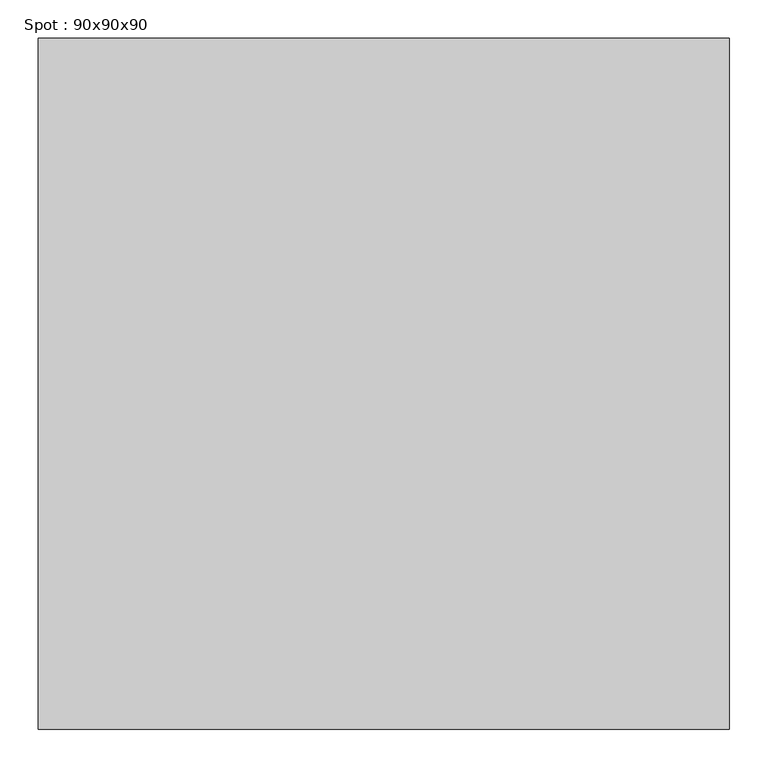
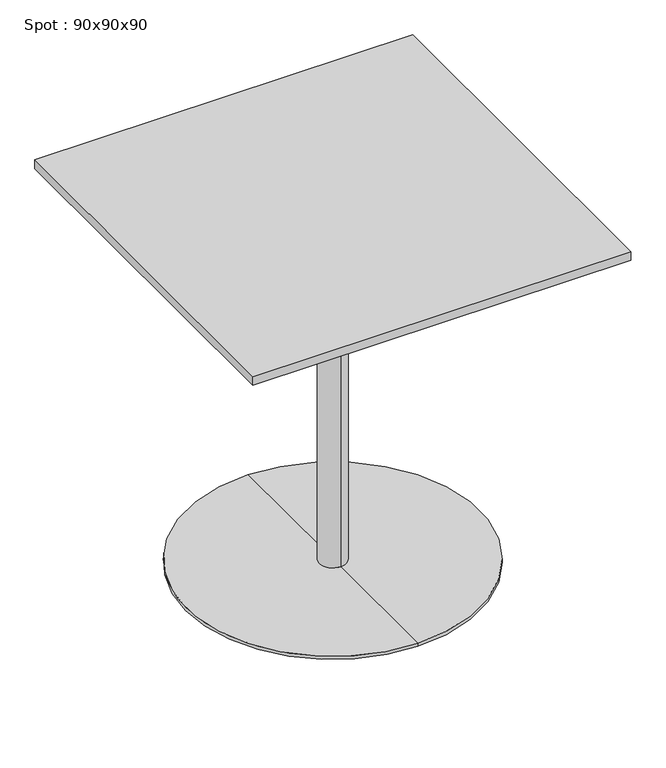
"""IFC4 building model written with IfcOpenShell, lengths in millimetres: furniture geometry, Spot : 90x90x90."""

from ifc_helpers import new_model, si_unit, frame, origin, place, context, project, spatial, polyline, circle_curve, outline, extrude, source, transform, mapped, element, save
from ifc_brep_helpers import plane_surface, cylinder_surface, revolved_surface, advanced_brep


def spot_90x90x90_a43f632c(model_context):
    return source(origin(), model_context, "Body", "SolidModel", [
        extrude(outline(polyline([(450.0, 450.0), (450.0, -450.0), (-450.0, -450.0), (-450.0, 450.0), (450.0, 450.0)])), frame((0.0, 0.0, 878.0), z_axis=(0.0, 0.0, 1.0), x_axis=(1.0, 0.0, 0.0)), (0.0, 0.0, 1.0), 22.0),
        advanced_brep(
        [(0.0, 32.0, 10.0), (0.0, -32.0, 10.0), (0.0, -32.0, 847.406916), (0.0, 32.0, 847.406916), (0.0, 350.0, 10.0), (0.0, -350.0, 10.0), (0.0, 350.0, 2.0), (0.0, -350.0, 2.0), (0.0, 0.0, 2.0), (0.0, 150.0, 878.0), (0.0, -150.0, 878.0), (0.0, 0.0, 878.0), (0.0, 150.0, 866.7213673), (0.0, -150.0, 866.7213673)],
        [
            (0, 1, circle_curve(frame((0.0, 0.0, 10.0), z_axis=(0.0, 0.0, 1.0), x_axis=(0.0, -1.0, 0.0)), 32.0)),
            (1, 2),
            (2, 3, circle_curve(frame((0.0, 0.0, 847.406916), z_axis=(0.0, 0.0, -1.0), x_axis=(0.0, -1.0, 0.0)), 32.0)),
            (3, 0),
            (1, 0, circle_curve(frame((0.0, 0.0, 10.0), z_axis=(0.0, 0.0, 1.0), x_axis=(0.0, -1.0, 0.0)), 32.0)),
            (3, 2, circle_curve(frame((0.0, 0.0, 847.406916), z_axis=(0.0, 0.0, -1.0), x_axis=(0.0, -1.0, 0.0)), 32.0)),
            (4, 5, circle_curve(frame((0.0, 0.0, 10.0), z_axis=(0.0, 0.0, 1.0), x_axis=(0.0, -1.0, 0.0)), 350.0)),
            (5, 1),
            (0, 4),
            (5, 4, circle_curve(frame((0.0, 0.0, 10.0), z_axis=(0.0, 0.0, 1.0), x_axis=(0.0, -1.0, 0.0)), 350.0)),
            (6, 7, circle_curve(frame((0.0, 0.0, 2.0), z_axis=(0.0, 0.0, 1.0), x_axis=(0.0, -1.0, 0.0)), 350.0)),
            (7, 5),
            (4, 6),
            (7, 6, circle_curve(frame((0.0, 0.0, 2.0), z_axis=(0.0, 0.0, 1.0), x_axis=(0.0, -1.0, 0.0)), 350.0)),
            (8, 7),
            (6, 8),
            (9, 10, circle_curve(frame((0.0, 0.0, 878.0), z_axis=(0.0, 0.0, 1.0), x_axis=(0.0, -1.0, 0.0)), 150.0)),
            (10, 11),
            (11, 9),
            (10, 9, circle_curve(frame((0.0, 0.0, 878.0), z_axis=(0.0, 0.0, 1.0), x_axis=(0.0, -1.0, 0.0)), 150.0)),
            (12, 13, circle_curve(frame((0.0, 0.0, 866.7213673), z_axis=(0.0, 0.0, 1.0), x_axis=(0.0, -1.0, 0.0)), 150.0)),
            (13, 10),
            (9, 12),
            (13, 12, circle_curve(frame((0.0, 0.0, 866.7213673), z_axis=(0.0, 0.0, 1.0), x_axis=(0.0, -1.0, 0.0)), 150.0)),
            (2, 13),
            (12, 3),
        ],
        [
            cylinder_surface(frame((0.0, 0.0, 1240.0), z_axis=(0.0, 0.0, -1.0), x_axis=(0.0, -1.0, 0.0)), 32.0),
            plane_surface(frame((0.0, 0.0, 10.0), z_axis=(0.0, 0.0, 1.0), x_axis=(0.0, -1.0, 0.0))),
            cylinder_surface(frame((0.0, 0.0, 1240.0), z_axis=(0.0, 0.0, -1.0), x_axis=(0.0, -1.0, 0.0)), 350.0),
            plane_surface(frame((0.0, 0.0, 2.0), z_axis=(0.0, 0.0, -1.0), x_axis=(0.0, -1.0, 0.0))),
            plane_surface(frame((0.0, 0.0, 878.0), z_axis=(0.0, 0.0, 1.0), x_axis=(0.0, -1.0, 0.0))),
            cylinder_surface(frame((0.0, 0.0, 1240.0), z_axis=(0.0, 0.0, -1.0), x_axis=(0.0, -1.0, 0.0)), 150.0),
            revolved_surface(polyline([(0.0, -150.0, 866.7213673), (0.0, -32.0, 847.406916)]), (0.0, 0.0, 1240.0), (0.0, 0.0, -1.0)),
        ],
        [
            (0, [[1, 2, 3, 4]]),
            (0, [[5, -4, 6, -2]]),
            (1, [[7, 8, -1, 9]]),
            (1, [[10, -9, -5, -8]]),
            (2, [[11, 12, -7, 13]]),
            (2, [[14, -13, -10, -12]]),
            (3, [[15, -11, 16]]),
            (3, [[-16, -14, -15]]),
            (4, [[17, 18, 19]]),
            (4, [[20, -19, -18]]),
            (5, [[21, 22, -17, 23]]),
            (5, [[24, -23, -20, -22]]),
            (6, [[-3, 25, -21, 26]]),
            (6, [[-6, -26, -24, -25]]),
        ],
    ),
    ])


if __name__ == "__main__":
    model = new_model("IFC4")
    model_context = context("Model", 3, world=origin())
    ifc_project = project(units=[si_unit("LENGTHUNIT", "METRE", prefix="MILLI")], contexts=[model_context])
    site = spatial("IfcSite", under=ifc_project)
    building = spatial("IfcBuilding", under=site)
    placement = place(None, origin())
    spot_90x90x90_shape = spot_90x90x90_a43f632c(model_context)
    element("IfcFurniture", 1, ObjectType="Spot : 90x90x90", at=placement, inside=building, context=model_context, shape_type="MappedRepresentation", body=[
        mapped(spot_90x90x90_shape, transform((0.0, 0.0, 0.0), x_axis=(1.0, 0.0, 0.0), y_axis=(0.0, 1.0, 0.0), z_axis=(0.0, 0.0, 1.0))),
    ])
    save(model, "model.ifc")
